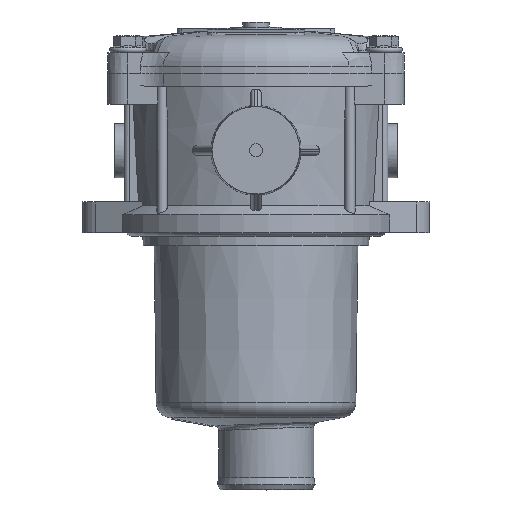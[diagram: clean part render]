
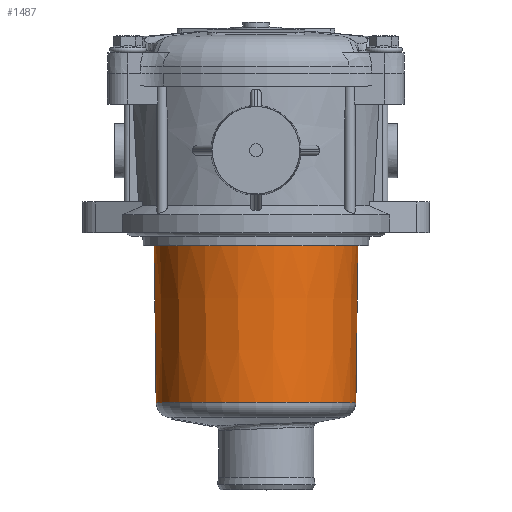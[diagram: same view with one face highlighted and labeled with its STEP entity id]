
A CAD part, top view. The second image highlights one B-rep face of the part: STEP entity #1487.
In plain terms, the highlighted conical face has half-angle 0.716 degrees and reference radius 38.894 mm.
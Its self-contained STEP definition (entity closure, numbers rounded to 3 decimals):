
#1456=CARTESIAN_POINT('',(38.85,-66.029,0.));
#1457=VERTEX_POINT('',#1456);
#1458=CARTESIAN_POINT('',(0.,-66.029,0.));
#1459=DIRECTION('',(0.0,-1.0,0.0));
#1460=DIRECTION('',(-1.0,0.0,0.0));
#1461=AXIS2_PLACEMENT_3D('',#1458,#1459,#1460);
#1462=CIRCLE('',#1461,38.85);
#1463=EDGE_CURVE('',#1457,#1457,#1462,.T.);
#1468=CARTESIAN_POINT('',(0.,-62.5,0.));
#1469=DIRECTION('',(0.,1.0,0.));
#1470=DIRECTION('',(1.0,0.0,0.0));
#1471=AXIS2_PLACEMENT_3D('',#1468,#1469,#1470);
#1472=CONICAL_SURFACE('',#1471,38.894,0.716);
#1473=CARTESIAN_POINT('',(39.613,-5.,0.));
#1474=VERTEX_POINT('',#1473);
#1475=CARTESIAN_POINT('',(0.,-5.0,0.));
#1476=DIRECTION('',(0.0,1.0,0.0));
#1477=DIRECTION('',(1.0,0.0,0.0));
#1478=AXIS2_PLACEMENT_3D('',#1475,#1476,#1477);
#1479=CIRCLE('',#1478,39.613);
#1480=EDGE_CURVE('',#1474,#1474,#1479,.T.);
#1481=ORIENTED_EDGE('',*,*,#1480,.F.);
#1482=EDGE_LOOP('',(#1481));
#1483=FACE_OUTER_BOUND('',#1482,.T.);
#1484=ORIENTED_EDGE('',*,*,#1463,.F.);
#1485=EDGE_LOOP('',(#1484));
#1486=FACE_BOUND('',#1485,.T.);
#1487=ADVANCED_FACE('',(#1483,#1486),#1472,.T.);
